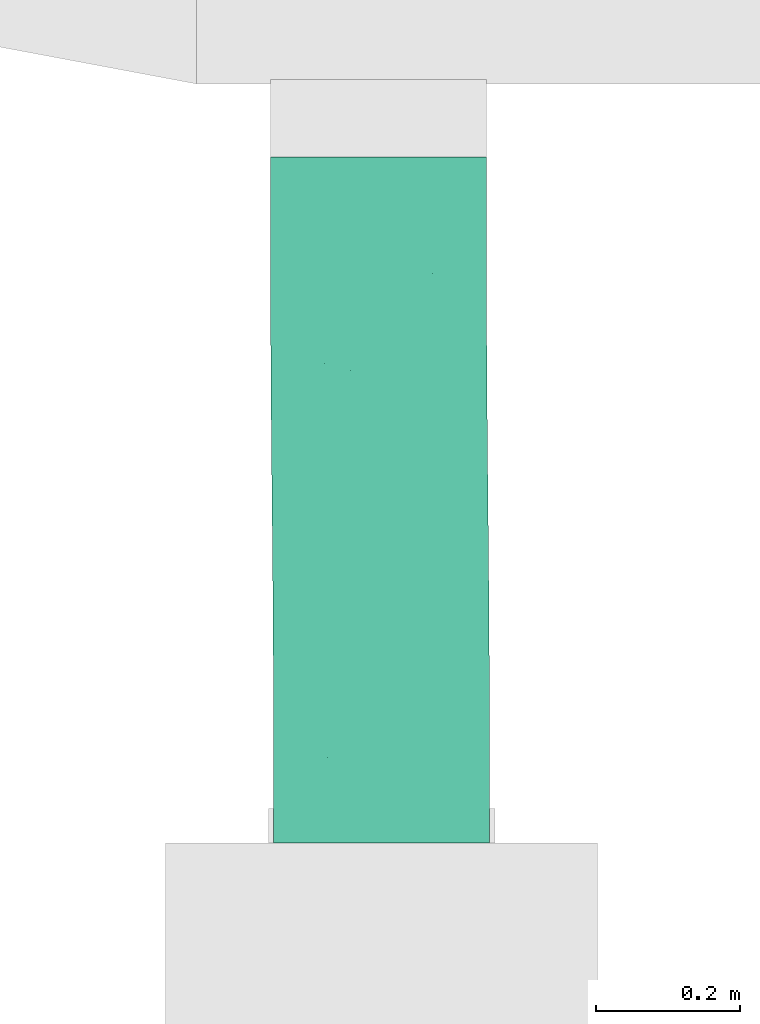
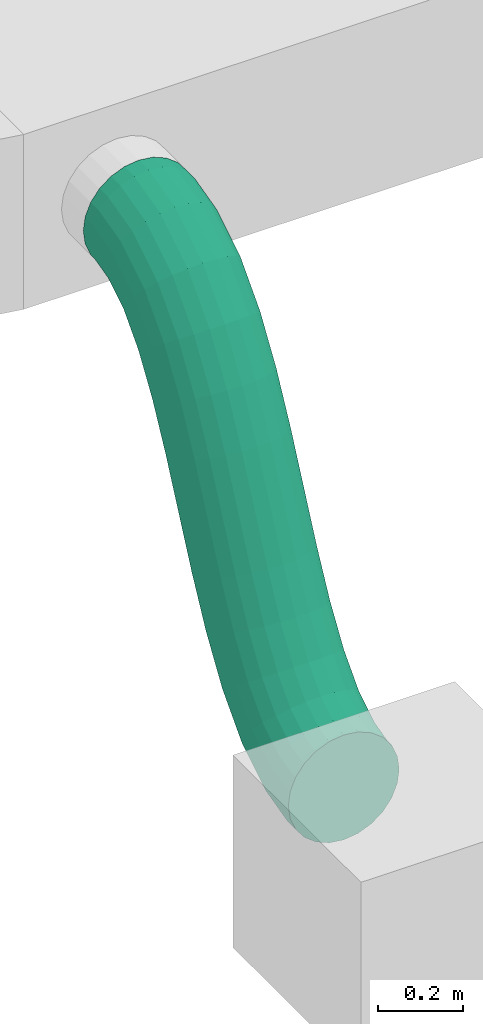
# One storey, part 42 of 60: 1 flow segment.
"""IFC2X3 building model written with IfcOpenShell, lengths in millimetres."""

from ifc_helpers import new_model, entity, si_unit, converted_unit, derived_unit, direction, frame, origin, place, context, subcontext, project, spatial, faceted_brep, type_object, element, save


model = new_model("IFC2X3")

# Units and contexts
model_context = context("Model", 3, precision=0.01, world=origin(), true_north=direction((6.123233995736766e-17, 1.0)))
body_context = subcontext(model_context, "Body", "Model", "MODEL_VIEW")
ifc_project = project(units=[si_unit("LENGTHUNIT", "METRE", prefix="MILLI"), converted_unit("PLANEANGLEUNIT", "DEGREE", entity("IfcPlaneAngleMeasure", 0.017453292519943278), si_unit("PLANEANGLEUNIT", "RADIAN"), dimensions=[0, 0, 0, 0, 0, 0, 0]), si_unit("AREAUNIT", "SQUARE_METRE"), derived_unit("THERMALTRANSMITTANCEUNIT", [(si_unit("MASSUNIT", "GRAM", prefix="KILO"), 1), (si_unit("THERMODYNAMICTEMPERATUREUNIT", "KELVIN"), -1), (si_unit("TIMEUNIT", "SECOND"), -3)])], contexts=[model_context])

# Site, building, storey
site_placement = place(None, origin())
site = spatial("IfcSite", under=ifc_project, at=site_placement, Name="Default", CompositionType="ELEMENT")
building_placement = place(site_placement, origin())
building = spatial("IfcBuilding", under=site, at=building_placement, Name="Praça Pedro II, 1301 - Centro (Sul), Teresina - PI, 64001-100", CompositionType="ELEMENT")
storey_placement = place(building_placement, frame((0.0, 0.0, 6040.0)))
storey = spatial("IfcBuildingStorey", under=building, at=storey_placement, Name="2PAV", CompositionType="ELEMENT", Elevation=6040.0)

# Flow segment
duct_segment_type = type_object("IfcDuctSegmentType", Name="Duto flexível redondo:Flexível - Redondo", PredefinedType="FLEXIBLESEGMENT")
flow_segment_placement = place(storey_placement, frame((22395.652642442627, -59589.90897878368, 2260.904727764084)))
element("IfcFlowSegment", 1, at=flow_segment_placement, inside=storey, type_object=duct_segment_type, Name="Duto flexível redondo:Flexível - Redondo", ObjectType="Duto flexível redondo:Flexível - Redondo", context=body_context, shape_type="Brep", body=[
    faceted_brep([(81.33675089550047, 0.0, 21.691461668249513), (117.51389413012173, 0.0, 6.706398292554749), (156.33675089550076, 0.0, 1.5952722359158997), (195.15960766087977, 0.0, 6.706398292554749), (231.33675089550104, 0.0, 21.691461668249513), (262.4027680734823, 0.0, 45.529255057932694), (286.24056146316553, 0.0, 76.59527223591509), (301.2256248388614, 0.0, 112.77241547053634), (306.3367508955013, 0.0, 151.59527223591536), (301.2256248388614, 0.0, 190.41812900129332), (286.24056146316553, 0.0, 226.59527223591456), (262.4027680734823, 0.0, 257.66128941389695), (231.33675089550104, 0.0, 281.49908280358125), (195.15960766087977, 0.0, 296.48414617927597), (156.33675089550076, 0.0, 301.5952722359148), (117.51389413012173, 0.0, 296.48414617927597), (81.33675089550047, 0.0, 281.49908280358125), (50.27073371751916, 0.0, 257.66128941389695), (26.43294032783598, 0.0, 226.59527223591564), (11.447876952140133, 0.0, 190.41812900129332), (6.3367508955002, 0.0, 151.59527223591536), (11.447876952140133, 0.0, 112.77241547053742), (26.43294032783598, 0.0, 76.59527223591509), (50.27073371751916, 0.0, 45.529255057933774), (11.447876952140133, 33.01458234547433, 112.77241547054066), (26.43294032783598, 37.60295186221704, 76.59527223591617), (50.27073371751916, 41.54924247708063, 45.52925505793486), (6.3367508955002, 28.096823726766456, 151.5952722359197), (81.33675089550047, 44.58452100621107, 21.691461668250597), (117.51389413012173, 46.50193823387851, 6.706398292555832), (156.33675089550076, 47.17082534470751, 1.5952722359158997), (195.15960766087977, 46.545598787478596, 6.706398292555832), (231.3367508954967, 44.668866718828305, 21.69146166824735), (262.4027680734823, 41.66852532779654, 45.529255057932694), (286.24056146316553, 37.749042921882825, 76.59527223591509), (301.2256248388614, 33.17752574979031, 112.7724154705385), (306.3367508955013, 28.26551515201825, 151.59527223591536), (301.2256248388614, 23.34775653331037, 190.41812900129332), (286.24056146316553, 18.75938701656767, 226.59527223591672), (262.4027680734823, 14.81309640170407, 257.66128941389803), (195.15960766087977, 9.860400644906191, 296.4841461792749), (156.33675089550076, 9.191513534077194, 301.5952722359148), (231.33675089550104, 11.777817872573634, 281.49908280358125), (81.3367508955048, 11.6934721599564, 281.4990828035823), (50.27073371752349, 14.693813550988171, 257.6612894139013), (117.51389413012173, 9.81674009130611, 296.48414617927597), (11.447876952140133, 23.184813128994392, 190.41812900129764), (26.43294032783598, 18.61329595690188, 226.59527223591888), (45.52925505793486, 952.3877009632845, 1113.0292550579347), (21.69146166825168, 952.3877009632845, 1144.0952722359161), (6.706398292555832, 952.3877009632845, 1180.2724154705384), (1.5952722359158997, 952.3877009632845, 1219.0952722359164), (6.706398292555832, 952.3877009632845, 1257.9181290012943), (21.69146166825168, 952.3877009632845, 1294.0952722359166), (45.52925505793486, 952.3877009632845, 1325.161289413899), (76.59527223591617, 952.3877009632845, 1348.9990828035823), (112.77241547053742, 952.3877009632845, 1363.9841461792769), (151.59527223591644, 952.3877009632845, 1369.0952722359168), (190.41812900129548, 952.3877009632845, 1363.984146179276), (226.59527223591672, 952.3877009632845, 1348.9990828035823), (257.66128941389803, 952.3877009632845, 1325.161289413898), (281.49908280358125, 952.3877009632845, 1294.0952722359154), (296.48414617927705, 952.3877009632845, 1257.9181290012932), (301.595272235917, 952.3877009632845, 1219.0952722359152), (296.48414617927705, 952.3877009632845, 1180.2724154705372), (281.49908280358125, 952.3877009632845, 1144.0952722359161), (257.66128941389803, 952.3877009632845, 1113.0292550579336), (226.59527223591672, 952.3877009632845, 1089.1914616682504), (190.41812900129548, 952.3877009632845, 1074.2063982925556), (151.59527223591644, 952.3877009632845, 1069.0952722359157), (112.77241547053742, 952.3877009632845, 1074.2063982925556), (76.59527223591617, 952.3877009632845, 1089.1914616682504), (6.243664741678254, 109.54219157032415, 172.55275751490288), (11.34273167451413, 125.01103360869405, 136.44490077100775), (26.31654364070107, 139.44378006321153, 102.8009081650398), (50.14466010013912, 151.85686311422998, 73.91356219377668), (81.20323429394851, 161.4043516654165, 51.751487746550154), (117.37567571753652, 167.43560014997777, 37.82499357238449), (156.19689226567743, 169.539588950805, 33.08314723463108), (195.02128218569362, 167.57293470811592, 37.849097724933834), (231.20302746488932, 161.66966165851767, 51.79805339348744), (262.2764019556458, 152.23206810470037, 73.979415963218), (286.12380653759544, 139.90331045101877, 102.88156223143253), (301.1200799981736, 125.52357315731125, 136.53485869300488), (306.24325108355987, 110.07281155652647, 172.64588880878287), (301.144184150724, 94.60396951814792, 208.75374555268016), (286.17037218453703, 80.17122306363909, 242.3977381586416), (262.3422557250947, 67.75814001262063, 271.28508412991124), (231.28368153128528, 58.210651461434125, 293.44715857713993), (195.11124010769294, 52.17940297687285, 307.37365275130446), (156.2900235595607, 50.07541417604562, 312.11549908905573), (117.46563363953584, 52.0420684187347, 307.3495485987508), (81.28388836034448, 57.94534146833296, 293.4005929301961), (50.21051386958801, 67.38293502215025, 271.2192303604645), (11.366835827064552, 94.09142996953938, 208.66378763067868), (26.363109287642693, 79.71169267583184, 242.31708409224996), (5.986194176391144, 202.57987044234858, 230.5198703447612), (11.058610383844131, 227.67902353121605, 200.4121775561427), (26.00755667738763, 251.09704744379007, 172.36646081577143), (49.81428707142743, 271.23804255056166, 148.29398937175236), (80.85641223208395, 286.72943331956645, 129.83526237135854), (117.0184626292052, 296.5155070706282, 118.24821155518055), (155.83605428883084, 299.9293590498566, 114.32247528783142), (194.66383248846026, 296.73834088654, 118.32558600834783), (230.855748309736, 287.1599151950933, 129.98473833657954), (261.94538249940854, 271.8468358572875, 148.5053803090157), (285.8140278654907, 251.84266392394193, 172.62536078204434), (300.835075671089, 228.51065065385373, 200.70094294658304), (305.9848663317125, 203.4408341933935, 230.8188222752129), (300.9124501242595, 178.3416811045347, 260.92651506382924), (285.96350383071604, 154.923657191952, 288.9722318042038), (262.15677343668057, 134.78266208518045, 313.04470324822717), (231.1146482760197, 119.29127131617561, 331.5034302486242), (194.9525978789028, 109.50519756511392, 343.0904810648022), (156.1350062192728, 106.0913455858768, 347.0162173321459), (117.30722801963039, 109.28236374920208, 343.0131066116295), (81.11531219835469, 118.86078944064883, 331.35395428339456), (50.02567800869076, 134.1738687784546, 312.8333123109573), (11.135984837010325, 177.51005398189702, 260.63774967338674), (26.157032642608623, 154.17804071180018, 288.7133318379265), (5.597050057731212, 282.3982327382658, 318.13206402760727), (10.64082226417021, 313.37263137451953, 294.47330273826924), (25.56304311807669, 342.272379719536, 272.4445711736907), (49.34678792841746, 367.128007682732, 253.54709098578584), (80.37123379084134, 386.2456452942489, 239.06869421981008), (116.52211599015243, 398.32245714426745, 229.99605968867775), (155.33581164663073, 402.5354284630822, 226.9474724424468), (194.167231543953, 398.5974522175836, 230.13068866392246), (230.37007858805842, 386.7768949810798, 239.3287774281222), (261.4771885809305, 367.8793081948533, 253.9149041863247), (285.3686633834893, 343.1925311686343, 272.89504850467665), (300.4163384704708, 314.39892695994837, 294.9757449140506), (305.594739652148, 283.460732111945, 318.6522304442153), (300.55096744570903, 252.48633347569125, 342.31099173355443), (285.62874659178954, 223.58658513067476, 364.339723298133), (261.8450017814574, 198.73095716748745, 383.2372034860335), (230.82055591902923, 179.61331955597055, 397.7156002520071), (194.66967371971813, 167.53650770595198, 406.7882347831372), (155.8559780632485, 163.3235363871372, 409.8368220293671), (117.02455816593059, 167.26151263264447, 406.6536058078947), (80.82171112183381, 179.08206986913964, 397.4555170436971), (49.714601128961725, 197.97965665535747, 382.8693902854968), (10.77545123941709, 251.46003789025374, 341.80854955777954), (25.82312632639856, 222.66643368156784, 363.8892459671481), (5.10897073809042, 352.3063200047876, 428.01860177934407), (10.133100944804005, 386.0940618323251, 408.78205478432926), (25.036995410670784, 417.6187169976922, 390.87933973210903), (48.80497835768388, 444.73193234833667, 375.53049706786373), (79.81730102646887, 465.58598706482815, 363.78152505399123), (115.96052487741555, 478.7597117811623, 356.4330967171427), (154.7715489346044, 483.3553389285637, 353.98599530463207), (193.6054660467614, 479.0596841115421, 356.6069867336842), (229.81580893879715, 466.16548910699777, 364.11745476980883), (260.93490258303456, 445.55147199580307, 376.0055734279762), (284.8420321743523, 418.6224439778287, 391.46118706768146), (299.90796633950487, 387.2135738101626, 409.4310211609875), (305.10598656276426, 353.4653240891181, 428.69046121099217), (300.0818563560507, 319.6775822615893, 447.92700820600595), (285.1779618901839, 288.15292709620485, 465.8297232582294), (261.4099789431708, 261.03971174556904, 481.1785659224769), (230.39765627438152, 240.18565702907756, 492.9275379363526), (194.25443242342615, 227.01193231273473, 500.2759662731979), (155.4434083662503, 222.41630516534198, 502.7230676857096), (116.60949125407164, 226.7119599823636, 500.1020762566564), (80.39914836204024, 239.60615498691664, 492.5916082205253), (49.280054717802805, 260.22017209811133, 480.70348956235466), (10.306990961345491, 318.55807028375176, 447.2780418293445), (25.372925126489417, 287.14920011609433, 465.24787592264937), (4.5548862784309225, 415.59959641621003, 552.7655853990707), (9.568194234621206, 450.62356799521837, 535.9655678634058), (24.461991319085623, 483.3016508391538, 520.3361847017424), (48.221289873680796, 511.4068876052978, 506.94255254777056), (79.22693296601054, 533.0239528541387, 496.6974252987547), (115.3659372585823, 546.6796793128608, 490.29899144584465), (154.17548933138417, 551.443451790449, 488.1832936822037), (193.0107823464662, 546.9906270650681, 490.4945133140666), (229.22525526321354, 533.6246577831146, 497.07514454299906), (260.350951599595, 512.2564126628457, 507.47672822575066), (284.2667065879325, 484.3421022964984, 520.9904136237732), (299.3427010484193, 451.7840408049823, 536.6952654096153), (304.55153087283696, 416.8010062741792, 553.5210238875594), (299.53822291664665, 381.7770346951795, 570.3210414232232), (284.64442583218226, 349.09895185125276, 585.9504245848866), (260.88512727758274, 320.99371508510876, 599.3440567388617), (229.879484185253, 299.3766498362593, 609.5891839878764), (193.74047989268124, 285.7209233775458, 615.9876178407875), (154.93092781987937, 280.957150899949, 618.1033156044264), (116.09563480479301, 285.40997562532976, 615.7920959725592), (79.88116188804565, 298.77594490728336, 609.2114647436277), (48.75546555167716, 320.1441900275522, 598.8098810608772), (9.763716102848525, 380.6165618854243, 569.5913438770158), (24.839710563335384, 348.0585003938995, 585.2961956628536), (3.967747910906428, 475.58715409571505, 684.9543501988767), (3.3804922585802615, 535.5866946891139, 817.1695205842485), (8.393800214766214, 570.6106662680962, 800.3695030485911), (8.977636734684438, 510.96045628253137, 668.9241186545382), (23.28759729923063, 603.288749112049, 784.7401198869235), (23.86824369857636, 543.9644717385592, 654.0129615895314), (47.62479854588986, 572.3500313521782, 641.2370497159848), (47.04689585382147, 631.3939858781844, 771.3464877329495), (78.62833132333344, 594.1827061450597, 631.4670403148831), (78.05253894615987, 653.0110511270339, 761.1013604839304), (114.19154323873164, 666.666777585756, 754.7029266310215), (114.76600250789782, 607.9746354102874, 625.3687433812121), (153.0010953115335, 671.4305500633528, 752.5872288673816), (153.57508952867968, 612.7859219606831, 623.3577477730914), (191.8363883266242, 666.977725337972, 754.8984484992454), (192.4108172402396, 608.2886845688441, 625.5710995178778), (228.05086124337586, 653.6117560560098, 761.479079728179), (228.62659497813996, 594.7894025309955, 631.8579623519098), (259.176557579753, 632.2435109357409, 771.8806634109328), (259.7543773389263, 573.2080296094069, 641.7898969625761), (283.67285739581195, 545.0153007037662, 654.6900584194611), (283.0923125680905, 604.329200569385, 785.3943488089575), (298.168307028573, 571.7711390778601, 801.0992005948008), (298.75203026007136, 512.1325036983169, 669.6793220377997), (303.37713685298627, 536.7881045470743, 817.9249590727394), (303.9642752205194, 476.8005468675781, 685.7361942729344), (298.3638288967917, 501.7641329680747, 834.7249766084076), (298.9543863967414, 441.42724468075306, 701.7664258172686), (283.47003181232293, 469.08605012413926, 850.3543597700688), (284.0637794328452, 408.42322922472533, 716.6775828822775), (259.7107332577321, 440.98081335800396, 863.7479919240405), (260.3072245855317, 380.0376696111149, 729.4534947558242), (229.30369180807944, 358.2049948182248, 739.2235041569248), (228.70509016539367, 419.3637481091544, 873.9931191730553), (192.56608587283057, 405.7080216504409, 880.3915530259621), (193.16602062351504, 344.413065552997, 745.3218010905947), (153.75653380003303, 400.94424917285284, 882.5072507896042), (154.35693360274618, 339.6017790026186, 747.3327966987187), (114.92124078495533, 405.39707389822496, 880.1960311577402), (115.5212058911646, 344.0990163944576, 745.1194449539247), (78.70676786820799, 418.7630431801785, 873.6153999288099), (79.30542815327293, 357.5982984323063, 738.8325821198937), (48.177645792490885, 379.1796713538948, 728.9006475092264), (47.58107153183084, 440.13128830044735, 863.2138162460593), (24.25916573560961, 407.3724002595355, 716.0004860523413), (23.665316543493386, 468.045598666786, 849.700130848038), (8.589322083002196, 500.60366015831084, 833.9952790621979), (9.179992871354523, 440.25519726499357, 701.0112224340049), (7.850166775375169, 632.7101187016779, 922.7635362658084), (22.754061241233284, 664.234773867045, 904.8608212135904), (2.826036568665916, 598.9223768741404, 942.0000832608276), (46.52204418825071, 691.3479892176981, 889.5119785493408), (77.53436685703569, 712.2020439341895, 877.7630065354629), (113.67759070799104, 725.3757686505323, 870.4145781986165), (152.48861476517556, 729.9713957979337, 867.9674767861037), (191.32253187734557, 725.6757409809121, 870.5884682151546), (227.53287476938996, 712.7815459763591, 878.0989362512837), (258.6519684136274, 692.1675288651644, 889.9870549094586), (297.625032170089, 633.8296306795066, 923.4125026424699), (302.82305239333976, 600.0813809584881, 942.671942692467), (282.5590980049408, 665.2385008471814, 905.442668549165), (297.79892218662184, 566.2936391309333, 961.9084896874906), (282.8950277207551, 534.7689839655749, 979.8112047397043), (259.1270447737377, 507.6557686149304, 995.160047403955), (228.11472210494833, 486.80171389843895, 1006.9090194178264), (191.97149825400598, 473.6279891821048, 1014.2574477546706), (153.16047419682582, 469.03236203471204, 1016.7045491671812), (114.32655708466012, 473.328016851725, 1014.083557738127), (78.11621419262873, 486.222211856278, 1006.5730897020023), (46.9971205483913, 506.8362289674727, 994.6849710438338), (23.089990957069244, 533.7652569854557, 979.2293574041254), (8.024056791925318, 565.1741271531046, 961.2595233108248), (7.381055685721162, 699.9013674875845, 1028.37955273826), (22.303276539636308, 728.801115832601, 1006.3508211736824), (2.337283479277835, 668.9269688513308, 1052.0383140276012), (46.08702134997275, 753.6567437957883, 987.453340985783), (77.11146721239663, 772.7743814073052, 972.9749442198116), (113.26234941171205, 784.8511932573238, 963.9023096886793), (152.07604506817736, 789.0641645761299, 960.8537224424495), (190.90746496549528, 785.1261883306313, 964.0369386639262), (227.1103120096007, 773.3056310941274, 973.2350274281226), (258.2174220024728, 754.4080443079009, 987.8211541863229), (297.1565718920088, 700.927663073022, 1028.8819949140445), (302.33497307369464, 669.9894682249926, 1052.55848044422), (282.10889680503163, 729.7212672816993, 1006.8012985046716), (297.29120086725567, 639.0150695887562, 1076.2172417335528), (282.36898001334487, 610.115321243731, 1098.2459732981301), (258.5852352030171, 585.2596932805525, 1117.1434534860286), (227.56078934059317, 566.1420556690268, 1131.6218502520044), (191.40990714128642, 554.0652438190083, 1140.6944847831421), (152.59621148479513, 549.8522725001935, 1143.7430720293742), (113.7647915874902, 553.7902487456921, 1140.5598558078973), (77.56194454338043, 565.6108059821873, 1131.3617670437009), (46.45483455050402, 584.5083927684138, 1116.7756402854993), (22.563359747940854, 609.1951697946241, 1097.7954959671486), (7.51568466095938, 637.9887740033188, 1075.7147995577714), (7.019573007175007, 774.046019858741, 1109.7640294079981), (21.968519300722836, 797.4640437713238, 1081.718312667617), (1.9471567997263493, 748.9468667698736, 1139.8717221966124), (45.775249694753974, 817.6050388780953, 1057.6458412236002), (76.81737485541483, 833.0964296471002, 1039.1871142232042), (112.9794252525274, 842.8825033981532, 1027.600063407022), (151.79701691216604, 846.2963553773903, 1023.6743271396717), (190.62479511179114, 843.1053372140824, 1027.6774378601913), (226.81671093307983, 833.526911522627, 1039.336590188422), (257.90634512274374, 818.2138321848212, 1057.8572321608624), (296.7960382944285, 774.8776469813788, 1110.0527947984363), (301.9458289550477, 749.8078305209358, 1140.1706741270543), (281.7749904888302, 798.2096602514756, 1081.9772126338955), (296.8734127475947, 724.7086774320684, 1170.278366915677), (281.92446645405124, 701.2906535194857, 1198.3240836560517), (258.1177360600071, 681.1496584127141, 1222.396555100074), (227.07561089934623, 665.6582676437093, 1240.8552821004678), (190.91356050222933, 655.8721938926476, 1252.4423329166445), (152.09596884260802, 652.4583419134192, 1256.3680691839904), (113.26819064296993, 655.6493600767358, 1252.3649584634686), (77.07627482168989, 665.2277857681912, 1240.705806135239), (45.98664063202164, 680.5408651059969, 1222.185164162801), (22.11799526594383, 700.5450370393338, 1198.06518368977), (7.0969474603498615, 723.877050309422, 1169.9896015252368), (6.787838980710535, 857.7837314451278, 1161.9367989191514), (21.761650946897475, 872.2164778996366, 1128.2928063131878), (1.6887720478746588, 842.3148894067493, 1198.0446556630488), (45.589767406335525, 884.6295609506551, 1099.4054603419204), (76.64834160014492, 894.1770495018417, 1077.243385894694), (112.8207830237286, 900.208297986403, 1063.3168917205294), (151.64199957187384, 902.3122867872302, 1058.575045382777), (190.4663894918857, 900.3456325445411, 1063.3409958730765), (226.64813477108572, 894.4423594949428, 1077.2899515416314), (257.72150926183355, 885.0047659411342, 1099.4713141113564), (296.5651873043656, 858.296270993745, 1162.0267568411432), (301.6883583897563, 842.8455093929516, 1198.1377869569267), (281.5689138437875, 872.6760082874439, 1128.373460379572), (296.58929145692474, 827.3766673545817, 1234.2456437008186), (281.61547949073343, 812.9439209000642, 1267.8896363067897), (257.78736303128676, 800.5308378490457, 1296.7769822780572), (226.72878883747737, 790.9833492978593, 1318.9390567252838), (190.55634741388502, 784.952100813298, 1332.8655508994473), (151.7351308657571, 782.8481120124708, 1337.6073972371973), (112.91074094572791, 784.8147662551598, 1332.8414467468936), (76.72899566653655, 790.7180393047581, 1318.8924910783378), (45.65562117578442, 800.1556328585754, 1296.7111285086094), (21.808216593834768, 812.4843905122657, 1267.8089822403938), (6.811943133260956, 826.8641278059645, 1234.1556857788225), (6.706398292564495, 929.0399444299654, 1180.2724154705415), (21.69146166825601, 933.6283139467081, 1144.0952722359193), (1.5952722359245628, 924.1221858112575, 1219.0952722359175), (45.52925505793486, 937.5746045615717, 1113.029255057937), (76.59527223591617, 940.6098830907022, 1089.1914616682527), (112.77241547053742, 942.5273003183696, 1074.2063982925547), (151.5952722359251, 943.1961874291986, 1069.0952722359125), (190.41812900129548, 942.5709608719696, 1074.2063982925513), (226.59527223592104, 940.6942288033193, 1089.191461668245), (257.66128941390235, 937.6938874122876, 1113.029255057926), (296.48414617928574, 929.2028878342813, 1180.2724154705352), (301.5952722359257, 924.2908772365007, 1219.0952722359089), (281.4990828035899, 933.7744050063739, 1144.0952722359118), (296.48414617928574, 919.3731186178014, 1257.9181290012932), (281.49908280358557, 914.7847491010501, 1294.0952722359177), (257.66128941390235, 910.8384584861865, 1325.1612894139), (226.59527223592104, 907.8031799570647, 1348.9990828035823), (190.41812900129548, 905.8857627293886, 1363.9841461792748), (151.5952722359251, 905.2168756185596, 1369.0952722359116), (112.77241547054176, 905.8421021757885, 1363.9841461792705), (76.5952722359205, 907.7188342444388, 1348.9990828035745), (45.52925505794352, 910.7191756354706, 1325.1612894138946), (21.69146166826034, 914.638658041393, 1294.0952722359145), (6.706398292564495, 919.2101752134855, 1257.9181290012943)], [[[0, 1, 2, 3, 4, 5, 6, 7, 8, 9, 10, 11, 12, 13, 14, 15, 16, 17, 18, 19, 20, 21, 22, 23]], [[22, 21, 24, 25]], [[23, 22, 25, 26]], [[20, 27, 24, 21]], [[1, 0, 28, 29]], [[2, 1, 29, 30]], [[23, 26, 28, 0]], [[2, 30, 31, 3]], [[3, 31, 32, 4]], [[4, 32, 33, 5]], [[6, 34, 35, 7]], [[7, 35, 36, 8]], [[5, 33, 34, 6]], [[37, 38, 10, 9]], [[36, 37, 9, 8]], [[10, 38, 39, 11]], [[40, 41, 14, 13]], [[42, 40, 13, 12]], [[11, 39, 42, 12]], [[16, 43, 44, 17]], [[45, 43, 16, 15]], [[14, 41, 45, 15]], [[46, 27, 20, 19]], [[47, 46, 19, 18]], [[44, 47, 18, 17]], [[48, 49, 50, 51, 52, 53, 54, 55, 56, 57, 58, 59, 60, 61, 62, 63, 64, 65, 66, 67, 68, 69, 70, 71]], [[24, 27, 72, 73]], [[25, 24, 73, 74]], [[26, 25, 74, 75]], [[29, 28, 76, 77]], [[30, 29, 77, 78]], [[75, 76, 28, 26]], [[30, 78, 79, 31]], [[31, 79, 80, 32]], [[32, 80, 81, 33]], [[33, 81, 82, 34]], [[34, 82, 83, 35]], [[84, 36, 35, 83]], [[85, 86, 38, 37]], [[84, 85, 37, 36]], [[87, 39, 38, 86]], [[88, 89, 40, 42]], [[88, 42, 39, 87]], [[90, 41, 40, 89]], [[91, 92, 43, 45]], [[90, 91, 45, 41]], [[44, 43, 92, 93]], [[94, 72, 27, 46]], [[95, 94, 46, 47]], [[93, 95, 47, 44]], [[72, 96, 97, 73]], [[73, 97, 98, 74]], [[99, 75, 74, 98]], [[76, 100, 101, 77]], [[77, 101, 102, 78]], [[100, 76, 75, 99]], [[79, 78, 102, 103]], [[80, 79, 103, 104]], [[104, 105, 81, 80]], [[82, 81, 105, 106]], [[83, 82, 106, 107]], [[84, 83, 107, 108]], [[109, 110, 86, 85]], [[108, 109, 85, 84]], [[87, 86, 110, 111]], [[112, 113, 89, 88]], [[111, 112, 88, 87]], [[90, 89, 113, 114]], [[115, 116, 92, 91]], [[114, 115, 91, 90]], [[117, 93, 92, 116]], [[118, 96, 72, 94]], [[119, 118, 94, 95]], [[119, 95, 93, 117]], [[96, 120, 121, 97]], [[97, 121, 122, 98]], [[123, 99, 98, 122]], [[100, 124, 125, 101]], [[101, 125, 126, 102]], [[124, 100, 99, 123]], [[103, 102, 126, 127]], [[104, 103, 127, 128]], [[128, 129, 105, 104]], [[106, 105, 129, 130]], [[107, 106, 130, 131]], [[108, 107, 131, 132]], [[133, 134, 110, 109]], [[132, 133, 109, 108]], [[111, 110, 134, 135]], [[136, 137, 113, 112]], [[135, 136, 112, 111]], [[114, 113, 137, 138]], [[139, 140, 116, 115]], [[138, 139, 115, 114]], [[141, 117, 116, 140]], [[142, 120, 96, 118]], [[143, 142, 118, 119]], [[143, 119, 117, 141]], [[120, 144, 145, 121]], [[121, 145, 146, 122]], [[147, 123, 122, 146]], [[124, 148, 149, 125]], [[125, 149, 150, 126]], [[148, 124, 123, 147]], [[127, 126, 150, 151]], [[128, 127, 151, 152]], [[152, 153, 129, 128]], [[130, 129, 153, 154]], [[131, 130, 154, 155]], [[132, 131, 155, 156]], [[157, 158, 134, 133]], [[156, 157, 133, 132]], [[135, 134, 158, 159]], [[160, 161, 137, 136]], [[159, 160, 136, 135]], [[138, 137, 161, 162]], [[163, 164, 140, 139]], [[162, 163, 139, 138]], [[165, 141, 140, 164]], [[166, 144, 120, 142]], [[167, 166, 142, 143]], [[167, 143, 141, 165]], [[144, 168, 169, 145]], [[145, 169, 170, 146]], [[171, 147, 146, 170]], [[148, 172, 173, 149]], [[149, 173, 174, 150]], [[172, 148, 147, 171]], [[151, 150, 174, 175]], [[152, 151, 175, 176]], [[176, 177, 153, 152]], [[154, 153, 177, 178]], [[155, 154, 178, 179]], [[156, 155, 179, 180]], [[181, 182, 158, 157]], [[180, 181, 157, 156]], [[159, 158, 182, 183]], [[184, 185, 161, 160]], [[183, 184, 160, 159]], [[162, 161, 185, 186]], [[187, 188, 164, 163]], [[186, 187, 163, 162]], [[189, 165, 164, 188]], [[190, 168, 144, 166]], [[191, 190, 166, 167]], [[191, 167, 165, 189]], [[168, 192, 193, 194, 195, 169]], [[169, 195, 194, 196, 197, 170]], [[198, 171, 170, 197, 196, 199]], [[172, 200, 201, 202, 203, 173]], [[173, 203, 202, 204, 205, 174]], [[200, 172, 171, 198, 199, 201]], [[175, 174, 205, 204, 206, 207]], [[176, 175, 207, 206, 208, 209]], [[209, 208, 210, 211, 177, 176]], [[179, 178, 212, 213, 214, 215]], [[180, 179, 215, 214, 216, 217]], [[211, 210, 213, 212, 178, 177]], [[181, 180, 217, 216, 218, 219]], [[182, 181, 219, 218, 220, 221]], [[183, 182, 221, 220, 222, 223]], [[185, 184, 224, 225, 226, 227]], [[186, 185, 227, 226, 228, 229]], [[223, 222, 225, 224, 184, 183]], [[186, 229, 228, 230, 231, 187]], [[187, 231, 230, 232, 233, 188]], [[234, 189, 188, 233, 232, 235]], [[191, 236, 237, 238, 239, 190]], [[190, 239, 238, 193, 192, 168]], [[236, 191, 189, 234, 235, 237]], [[240, 241, 196, 194]], [[242, 240, 194, 193]], [[243, 199, 196, 241]], [[244, 245, 202, 201]], [[244, 201, 199, 243]], [[246, 204, 202, 245]], [[247, 248, 208, 206]], [[246, 247, 206, 204]], [[210, 208, 248, 249]], [[250, 251, 216, 214]], [[252, 250, 214, 213]], [[249, 252, 213, 210]], [[218, 216, 251, 253]], [[220, 218, 253, 254]], [[222, 220, 254, 255]], [[226, 225, 256, 257]], [[228, 226, 257, 258]], [[255, 256, 225, 222]], [[228, 258, 259, 230]], [[230, 259, 260, 232]], [[232, 260, 261, 235]], [[235, 261, 262, 237]], [[237, 262, 263, 238]], [[242, 193, 238, 263]], [[264, 265, 241, 240]], [[266, 264, 240, 242]], [[267, 243, 241, 265]], [[268, 269, 245, 244]], [[268, 244, 243, 267]], [[270, 246, 245, 269]], [[271, 272, 248, 247]], [[270, 271, 247, 246]], [[249, 248, 272, 273]], [[274, 275, 251, 250]], [[276, 274, 250, 252]], [[273, 276, 252, 249]], [[253, 251, 275, 277]], [[254, 253, 277, 278]], [[255, 254, 278, 279]], [[257, 256, 280, 281]], [[258, 257, 281, 282]], [[279, 280, 256, 255]], [[258, 282, 283, 259]], [[259, 283, 284, 260]], [[260, 284, 285, 261]], [[261, 285, 286, 262]], [[262, 286, 287, 263]], [[266, 242, 263, 287]], [[288, 289, 265, 264]], [[290, 288, 264, 266]], [[291, 267, 265, 289]], [[292, 293, 269, 268]], [[292, 268, 267, 291]], [[294, 270, 269, 293]], [[295, 296, 272, 271]], [[294, 295, 271, 270]], [[273, 272, 296, 297]], [[298, 299, 275, 274]], [[300, 298, 274, 276]], [[297, 300, 276, 273]], [[277, 275, 299, 301]], [[278, 277, 301, 302]], [[279, 278, 302, 303]], [[281, 280, 304, 305]], [[282, 281, 305, 306]], [[303, 304, 280, 279]], [[282, 306, 307, 283]], [[283, 307, 308, 284]], [[284, 308, 309, 285]], [[285, 309, 310, 286]], [[286, 310, 311, 287]], [[290, 266, 287, 311]], [[312, 313, 289, 288]], [[314, 312, 288, 290]], [[315, 291, 289, 313]], [[316, 317, 293, 292]], [[316, 292, 291, 315]], [[318, 294, 293, 317]], [[319, 320, 296, 295]], [[318, 319, 295, 294]], [[297, 296, 320, 321]], [[322, 323, 299, 298]], [[324, 322, 298, 300]], [[321, 324, 300, 297]], [[301, 299, 323, 325]], [[302, 301, 325, 326]], [[303, 302, 326, 327]], [[305, 304, 328, 329]], [[306, 305, 329, 330]], [[327, 328, 304, 303]], [[306, 330, 331, 307]], [[307, 331, 332, 308]], [[308, 332, 333, 309]], [[309, 333, 334, 310]], [[310, 334, 335, 311]], [[314, 290, 311, 335]], [[336, 337, 313, 312]], [[338, 336, 312, 314]], [[315, 313, 337, 339]], [[340, 341, 317, 316]], [[339, 340, 316, 315]], [[318, 317, 341, 342]], [[343, 344, 320, 319]], [[342, 343, 319, 318]], [[345, 321, 320, 344]], [[346, 347, 323, 322]], [[348, 346, 322, 324]], [[348, 324, 321, 345]], [[323, 347, 349, 325]], [[325, 349, 350, 326]], [[351, 327, 326, 350]], [[328, 352, 353, 329]], [[329, 353, 354, 330]], [[352, 328, 327, 351]], [[331, 330, 354, 355]], [[332, 331, 355, 356]], [[356, 357, 333, 332]], [[334, 333, 357, 358]], [[335, 334, 358, 359]], [[314, 335, 359, 338]], [[336, 338, 51, 50]], [[337, 336, 50, 49]], [[339, 337, 49, 48]], [[70, 69, 342, 341]], [[71, 70, 341, 340]], [[339, 48, 71, 340]], [[342, 69, 68, 343]], [[343, 68, 67, 344]], [[344, 67, 66, 345]], [[348, 65, 64, 346]], [[346, 64, 63, 347]], [[348, 345, 66, 65]], [[347, 63, 62, 349]], [[349, 62, 61, 350]], [[350, 61, 60, 351]], [[352, 59, 58, 353]], [[353, 58, 57, 354]], [[351, 60, 59, 352]], [[355, 354, 57, 56]], [[356, 355, 56, 55]], [[357, 356, 55, 54]], [[359, 358, 53, 52]], [[338, 359, 52, 51]], [[54, 53, 358, 357]]]),
])

save(model, "model.ifc")
